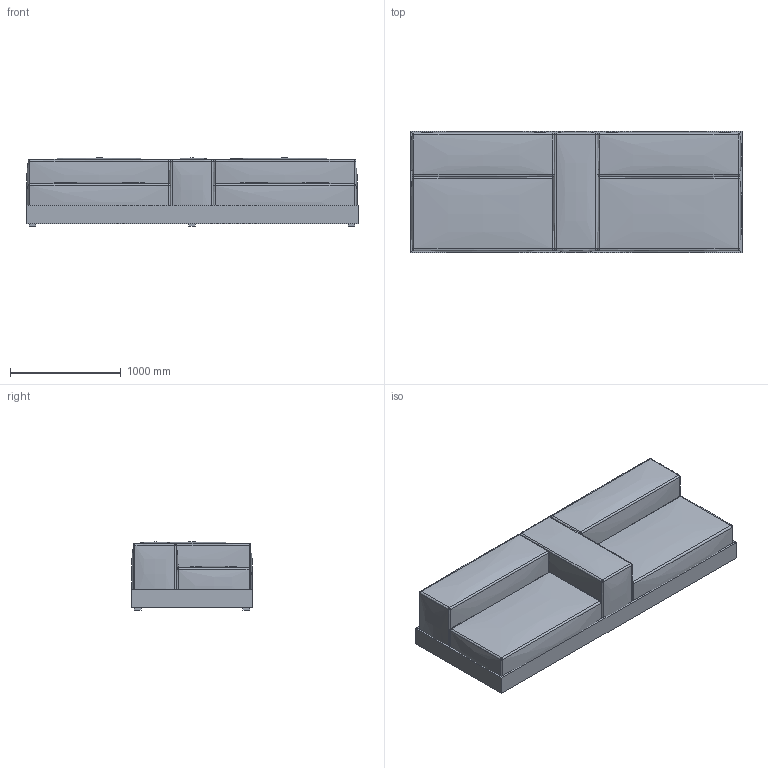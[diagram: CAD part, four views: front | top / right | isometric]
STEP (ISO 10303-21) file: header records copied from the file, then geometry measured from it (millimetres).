
FILE_DESCRIPTION(/* description */ (''),/* implementation_level */ '2;1');
FILE_NAME(/* name */ 'Polp1 300 blc.step',/* time_stamp */ '2024-01-07T10:25:29+01:00',/* author */ (''),/* organization */ (''),/* preprocessor_version */ 'ST-DEVELOPER v20',/* originating_system */ 'Autodesk Translation Framework v12.14.0.127',/* authorisation */ '');
FILE_SCHEMA (('AUTOMOTIVE_DESIGN { 1 0 10303 214 3 1 1 }'));
Length unit declared in the file: millimetre
Products named in the file (6): Polp1 300 blc; Component1; Component2; Component5; Component9; Component10
Assembly tree (5 placements, depth 2):
  Polp1 300 blc
    Component1
    Component2
    Component5
    Component9
    Component10
Bounding box: 3000 x 1100 x 615 mm (x, y, z)
Volume: 1475483469.6 mm3; surface area: 23723399.7 mm2
Topology: 21 solids, 21 shells, 226 faces, 432 edges, 248 vertices
Faces by surface type: plane 107, bspline 71, sphere 40, cylinder 8
Entity records: 13988 total; most frequent: CARTESIAN_POINT 9623, ORIENTED_EDGE 864, DIRECTION 780, EDGE_CURVE 432, AXIS2_PLACEMENT_3D 286, VERTEX_POINT 248, FACE_OUTER_BOUND 226, EDGE_LOOP 226
